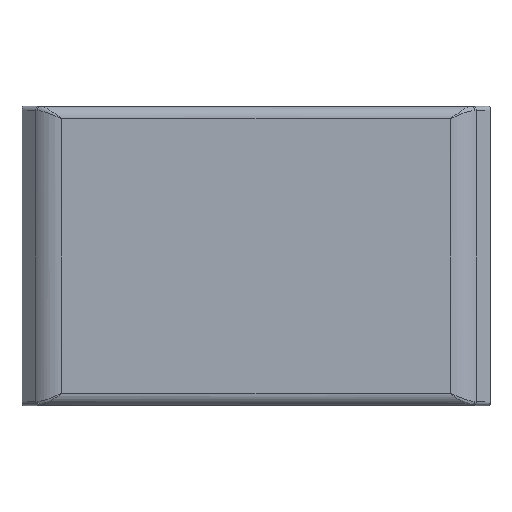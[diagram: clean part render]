
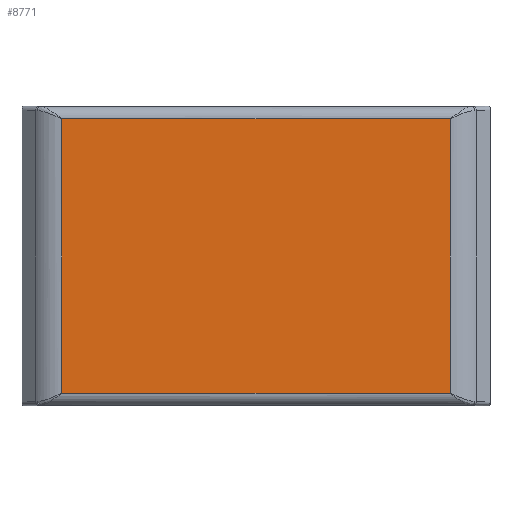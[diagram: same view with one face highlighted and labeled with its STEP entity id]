
A CAD part, front view. The second image highlights one B-rep face of the part: STEP entity #8771.
In plain terms, the highlighted planar face has unit normal (0, -1, 0).
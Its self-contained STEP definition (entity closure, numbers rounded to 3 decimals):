
#219 = CARTESIAN_POINT ( 'NONE',  ( -47.772, -6.5, 33.738 ) ) ;
#411 = CARTESIAN_POINT ( 'NONE',  ( -47.772, -6.5, 36.8 ) ) ;
#1153 = VECTOR ( 'NONE', #1252, 1000. ) ;
#1162 = CARTESIAN_POINT ( 'NONE',  ( 47.772, -6.5, 33.738 ) ) ;
#1197 = DIRECTION ( 'NONE',  ( 0., 0., 1. ) ) ;
#1252 = DIRECTION ( 'NONE',  ( 0., 0., 1. ) ) ;
#1345 = EDGE_LOOP ( 'NONE', ( #2848, #6453, #4542, #13018 ) ) ;
#1444 = DIRECTION ( 'NONE',  ( 0., 0., -1. ) ) ;
#1823 = VECTOR ( 'NONE', #1444, 1000. ) ;
#2249 = CARTESIAN_POINT ( 'NONE',  ( -47.772, -6.5, -33.738 ) ) ;
#2848 = ORIENTED_EDGE ( 'NONE', *, *, #13288, .T. ) ;
#2904 = LINE ( 'NONE', #8915, #8434 ) ;
#3073 = CARTESIAN_POINT ( 'NONE',  ( -51.5, -6.5, 36.8 ) ) ;
#4302 = VERTEX_POINT ( 'NONE', #2249 ) ;
#4542 = ORIENTED_EDGE ( 'NONE', *, *, #12784, .T. ) ;
#4748 = DIRECTION ( 'NONE',  ( 1., 0., 0. ) ) ;
#5956 = DIRECTION ( 'NONE',  ( -1., 0., 0. ) ) ;
#6168 = FACE_OUTER_BOUND ( 'NONE', #1345, .T. ) ;
#6371 = PLANE ( 'NONE',  #6958 ) ;
#6453 = ORIENTED_EDGE ( 'NONE', *, *, #12517, .T. ) ;
#6958 = AXIS2_PLACEMENT_3D ( 'NONE', #3073, #7431, #1197 ) ;
#7004 = LINE ( 'NONE', #8536, #1153 ) ;
#7082 = CARTESIAN_POINT ( 'NONE',  ( 47.772, -6.5, -33.738 ) ) ;
#7346 = LINE ( 'NONE', #411, #1823 ) ;
#7431 = DIRECTION ( 'NONE',  ( 0., 1., 0. ) ) ;
#8207 = VERTEX_POINT ( 'NONE', #219 ) ;
#8434 = VECTOR ( 'NONE', #4748, 1000. ) ;
#8536 = CARTESIAN_POINT ( 'NONE',  ( 47.772, -6.5, 36.8 ) ) ;
#8771 = ADVANCED_FACE ( 'NONE', ( #6168 ), #6371, .F. ) ;
#8915 = CARTESIAN_POINT ( 'NONE',  ( -51.5, -6.5, -33.738 ) ) ;
#9799 = VERTEX_POINT ( 'NONE', #1162 ) ;
#10274 = VECTOR ( 'NONE', #5956, 1000. ) ;
#10937 = LINE ( 'NONE', #11128, #10274 ) ;
#11128 = CARTESIAN_POINT ( 'NONE',  ( -47.772, -6.5, 33.738 ) ) ;
#11328 = EDGE_CURVE ( 'NONE', #4302, #12564, #2904, .T. ) ;
#12517 = EDGE_CURVE ( 'NONE', #9799, #8207, #10937, .T. ) ;
#12564 = VERTEX_POINT ( 'NONE', #7082 ) ;
#12784 = EDGE_CURVE ( 'NONE', #8207, #4302, #7346, .T. ) ;
#13018 = ORIENTED_EDGE ( 'NONE', *, *, #11328, .T. ) ;
#13288 = EDGE_CURVE ( 'NONE', #12564, #9799, #7004, .T. ) ;
